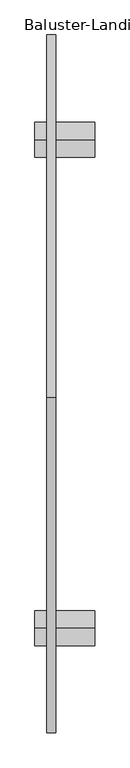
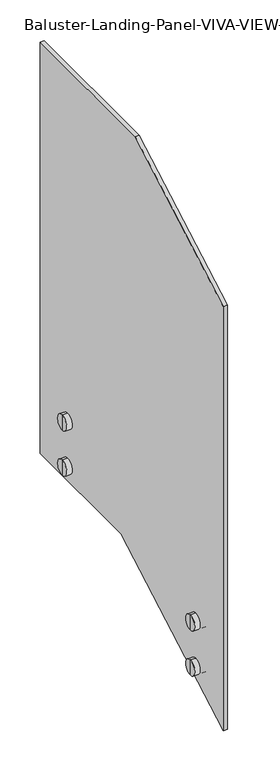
"""IFC4 building model written with IfcOpenShell, lengths in millimetres: railing geometry, Baluster-Landing-Panel-VIVA-VIEW-Lower : Standard_Glass."""

from ifc_helpers import new_model, si_unit, frame, origin, place, context, project, spatial, polyline, circle_curve, outline, extrude, source, transform, mapped, element, save
from ifc_brep_helpers import plane_surface, cylinder_surface, advanced_brep


def baluster_landing_panel_viva_view_lower_standard_glass_8c197ffc(model_context):
    return source(origin(), model_context, "Body", "SolidModel", [
        advanced_brep(
        [(15.875, 147.3891207, -546.0690625), (15.875, 147.3891207, -495.2690625), (15.875, 147.3891207, -520.6690625), (33.3375, 147.3891207, -546.0690625), (33.3375, 147.3891207, -495.2690625), (33.3375, 147.3891207, -526.3840625), (33.3375, 147.3891207, -514.9540625), (46.0375, 147.3891207, -526.3840625), (46.0375, 147.3891207, -514.9540625), (46.0375, 147.3891207, -546.0690625), (46.0375, 147.3891207, -495.2690625), (103.187353, 147.3891207, -546.0690625), (103.187353, 147.3891207, -495.2690625), (103.187353, 147.3891207, -520.6690625)],
        [
            (0, 1, circle_curve(frame((15.875, 147.3891207, -520.6690625), z_axis=(-1.0, 0.0, 0.0), x_axis=(0.0, 0.0, 1.0)), 25.4)),
            (1, 2),
            (2, 0),
            (1, 0, circle_curve(frame((15.875, 147.3891207, -520.6690625), z_axis=(-1.0, 0.0, 0.0), x_axis=(0.0, 0.0, 1.0)), 25.4)),
            (3, 4, circle_curve(frame((33.3375, 147.3891207, -520.6690625), z_axis=(-1.0, 0.0, 0.0), x_axis=(0.0, 0.0, 1.0)), 25.4)),
            (4, 1),
            (0, 3),
            (4, 3, circle_curve(frame((33.3375, 147.3891207, -520.6690625), z_axis=(-1.0, 0.0, 0.0), x_axis=(0.0, 0.0, 1.0)), 25.4)),
            (5, 6, circle_curve(frame((33.3375, 147.3891207, -520.6690625), z_axis=(-1.0, 0.0, 0.0), x_axis=(0.0, 0.0, 1.0)), 5.715)),
            (6, 4),
            (3, 5),
            (6, 5, circle_curve(frame((33.3375, 147.3891207, -520.6690625), z_axis=(-1.0, 0.0, 0.0), x_axis=(0.0, 0.0, 1.0)), 5.715)),
            (7, 8, circle_curve(frame((46.0375, 147.3891207, -520.6690625), z_axis=(-1.0, 0.0, 0.0), x_axis=(0.0, 0.0, 1.0)), 5.715)),
            (8, 6),
            (5, 7),
            (8, 7, circle_curve(frame((46.0375, 147.3891207, -520.6690625), z_axis=(-1.0, 0.0, 0.0), x_axis=(0.0, 0.0, 1.0)), 5.715)),
            (9, 10, circle_curve(frame((46.0375, 147.3891207, -520.6690625), z_axis=(-1.0, 0.0, 0.0), x_axis=(0.0, 0.0, 1.0)), 25.4)),
            (10, 8),
            (7, 9),
            (10, 9, circle_curve(frame((46.0375, 147.3891207, -520.6690625), z_axis=(-1.0, 0.0, 0.0), x_axis=(0.0, 0.0, 1.0)), 25.4)),
            (11, 12, circle_curve(frame((103.187353, 147.3891207, -520.6690625), z_axis=(-1.0, 0.0, 0.0), x_axis=(0.0, 0.0, 1.0)), 25.4)),
            (12, 10),
            (9, 11),
            (12, 11, circle_curve(frame((103.187353, 147.3891207, -520.6690625), z_axis=(-1.0, 0.0, 0.0), x_axis=(0.0, 0.0, 1.0)), 25.4)),
            (13, 12),
            (11, 13),
        ],
        [
            plane_surface(frame((15.875, 147.3891207, -520.6690625), z_axis=(-1.0, 0.0, 0.0), x_axis=(0.0, 0.0, 1.0))),
            cylinder_surface(frame((-52.387647, 147.3891207, -520.6690625), z_axis=(1.0, 0.0, 0.0), x_axis=(0.0, 0.0, 1.0)), 25.4),
            plane_surface(frame((33.3375, 147.3891207, -520.6690625), z_axis=(1.0, 0.0, 0.0), x_axis=(0.0, 0.0, 1.0))),
            cylinder_surface(frame((-52.387647, 147.3891207, -520.6690625), z_axis=(1.0, 0.0, 0.0), x_axis=(0.0, 0.0, 1.0)), 5.715),
            plane_surface(frame((46.0375, 147.3891207, -520.6690625), z_axis=(-1.0, 0.0, 0.0), x_axis=(0.0, 0.0, 1.0))),
            plane_surface(frame((103.187353, 147.3891207, -520.6690625), z_axis=(1.0, 0.0, 0.0), x_axis=(0.0, 0.0, 1.0))),
        ],
        [
            (0, [[1, 2, 3]]),
            (0, [[4, -3, -2]]),
            (1, [[5, 6, -1, 7]]),
            (1, [[8, -7, -4, -6]]),
            (2, [[9, 10, -5, 11]]),
            (2, [[12, -11, -8, -10]]),
            (3, [[13, 14, -9, 15]]),
            (3, [[16, -15, -12, -14]]),
            (4, [[17, 18, -13, 19]]),
            (4, [[20, -19, -16, -18]]),
            (1, [[21, 22, -17, 23]]),
            (1, [[24, -23, -20, -22]]),
            (5, [[25, -21, 26]]),
            (5, [[-26, -24, -25]]),
        ],
    ),
        advanced_brep(
        [(33.3375, 147.3891207, -373.9840625), (33.3375, 147.3891207, -362.5540625), (33.3375, 147.3891207, -342.8690625), (33.3375, 147.3891207, -393.6690625), (46.0375, 147.3891207, -373.9840625), (46.0375, 147.3891207, -362.5540625), (46.0375, 147.3891207, -393.6690625), (46.0375, 147.3891207, -342.8690625), (103.187353, 147.3891207, -393.6690625), (103.187353, 147.3891207, -342.8690625), (103.187353, 147.3891207, -368.2690625), (15.875, 147.3891207, -393.6690625), (15.875, 147.3891207, -342.8690625), (15.875, 147.3891207, -368.2690625)],
        [
            (0, 1, circle_curve(frame((33.3375, 147.3891207, -368.2690625), z_axis=(-1.0, 0.0, 0.0), x_axis=(0.0, 0.0, 1.0)), 5.715)),
            (1, 2),
            (2, 3, circle_curve(frame((33.3375, 147.3891207, -368.2690625), z_axis=(1.0, 0.0, 0.0), x_axis=(0.0, 0.0, 1.0)), 25.4)),
            (3, 0),
            (1, 0, circle_curve(frame((33.3375, 147.3891207, -368.2690625), z_axis=(-1.0, 0.0, 0.0), x_axis=(0.0, 0.0, 1.0)), 5.715)),
            (3, 2, circle_curve(frame((33.3375, 147.3891207, -368.2690625), z_axis=(1.0, 0.0, 0.0), x_axis=(0.0, 0.0, 1.0)), 25.4)),
            (4, 5, circle_curve(frame((46.0375, 147.3891207, -368.2690625), z_axis=(-1.0, 0.0, 0.0), x_axis=(0.0, 0.0, 1.0)), 5.715)),
            (5, 1),
            (0, 4),
            (5, 4, circle_curve(frame((46.0375, 147.3891207, -368.2690625), z_axis=(-1.0, 0.0, 0.0), x_axis=(0.0, 0.0, 1.0)), 5.715)),
            (6, 7, circle_curve(frame((46.0375, 147.3891207, -368.2690625), z_axis=(-1.0, 0.0, 0.0), x_axis=(0.0, 0.0, 1.0)), 25.4)),
            (7, 5),
            (4, 6),
            (7, 6, circle_curve(frame((46.0375, 147.3891207, -368.2690625), z_axis=(-1.0, 0.0, 0.0), x_axis=(0.0, 0.0, 1.0)), 25.4)),
            (8, 9, circle_curve(frame((103.187353, 147.3891207, -368.2690625), z_axis=(-1.0, 0.0, 0.0), x_axis=(0.0, 0.0, 1.0)), 25.4)),
            (9, 7),
            (6, 8),
            (9, 8, circle_curve(frame((103.187353, 147.3891207, -368.2690625), z_axis=(-1.0, 0.0, 0.0), x_axis=(0.0, 0.0, 1.0)), 25.4)),
            (10, 9),
            (8, 10),
            (11, 12, circle_curve(frame((15.875, 147.3891207, -368.2690625), z_axis=(-1.0, 0.0, 0.0), x_axis=(0.0, 0.0, 1.0)), 25.4)),
            (12, 13),
            (13, 11),
            (12, 11, circle_curve(frame((15.875, 147.3891207, -368.2690625), z_axis=(-1.0, 0.0, 0.0), x_axis=(0.0, 0.0, 1.0)), 25.4)),
            (2, 12),
            (11, 3),
        ],
        [
            plane_surface(frame((33.3375, 147.3891207, -368.2690625), z_axis=(1.0, 0.0, 0.0), x_axis=(0.0, 0.0, 1.0))),
            cylinder_surface(frame((-52.387647, 147.3891207, -368.2690625), z_axis=(1.0, 0.0, 0.0), x_axis=(0.0, 0.0, 1.0)), 5.715),
            plane_surface(frame((46.0375, 147.3891207, -368.2690625), z_axis=(-1.0, 0.0, 0.0), x_axis=(0.0, 0.0, 1.0))),
            cylinder_surface(frame((-52.387647, 147.3891207, -368.2690625), z_axis=(1.0, 0.0, 0.0), x_axis=(0.0, 0.0, 1.0)), 25.4),
            plane_surface(frame((103.187353, 147.3891207, -368.2690625), z_axis=(1.0, 0.0, 0.0), x_axis=(0.0, 0.0, 1.0))),
            plane_surface(frame((15.875, 147.3891207, -368.2690625), z_axis=(-1.0, 0.0, 0.0), x_axis=(0.0, 0.0, 1.0))),
        ],
        [
            (0, [[1, 2, 3, 4]]),
            (0, [[5, -4, 6, -2]]),
            (1, [[7, 8, -1, 9]]),
            (1, [[10, -9, -5, -8]]),
            (2, [[11, 12, -7, 13]]),
            (2, [[14, -13, -10, -12]]),
            (3, [[15, 16, -11, 17]]),
            (3, [[18, -17, -14, -16]]),
            (4, [[19, -15, 20]]),
            (4, [[-20, -18, -19]]),
            (5, [[21, 22, 23]]),
            (5, [[24, -23, -22]]),
            (3, [[-3, 25, -21, 26]]),
            (3, [[-6, -26, -24, -25]]),
        ],
    ),
        advanced_brep(
        [(15.875, 858.1688714, -300.2438244), (15.875, 858.1688714, -274.8438244), (15.875, 858.1688714, -249.4438244), (33.3375, 858.1688714, -300.2438244), (33.3375, 858.1688714, -249.4438244), (33.3375, 858.1688714, -280.5588244), (33.3375, 858.1688714, -269.1288244), (46.0375, 858.1688714, -280.5588244), (46.0375, 858.1688714, -269.1288244), (46.0375, 858.1688714, -300.2438244), (46.0375, 858.1688714, -249.4438244), (103.187353, 858.1688714, -300.2438244), (103.187353, 858.1688714, -249.4438244), (103.187353, 858.1688714, -274.8438244)],
        [
            (0, 1),
            (1, 2),
            (2, 0, circle_curve(frame((15.875, 858.1688714, -274.8438244), z_axis=(-1.0, 0.0, 0.0), x_axis=(0.0, 0.0, 1.0)), 25.4)),
            (0, 2, circle_curve(frame((15.875, 858.1688714, -274.8438244), z_axis=(-1.0, 0.0, 0.0), x_axis=(0.0, 0.0, 1.0)), 25.4)),
            (3, 0),
            (2, 4),
            (4, 3, circle_curve(frame((33.3375, 858.1688714, -274.8438244), z_axis=(-1.0, 0.0, 0.0), x_axis=(0.0, 0.0, 1.0)), 25.4)),
            (3, 4, circle_curve(frame((33.3375, 858.1688714, -274.8438244), z_axis=(-1.0, 0.0, 0.0), x_axis=(0.0, 0.0, 1.0)), 25.4)),
            (5, 3),
            (4, 6),
            (6, 5, circle_curve(frame((33.3375, 858.1688714, -274.8438244), z_axis=(-1.0, 0.0, 0.0), x_axis=(0.0, 0.0, 1.0)), 5.715)),
            (5, 6, circle_curve(frame((33.3375, 858.1688714, -274.8438244), z_axis=(-1.0, 0.0, 0.0), x_axis=(0.0, 0.0, 1.0)), 5.715)),
            (7, 5),
            (6, 8),
            (8, 7, circle_curve(frame((46.0375, 858.1688714, -274.8438244), z_axis=(-1.0, 0.0, 0.0), x_axis=(0.0, 0.0, 1.0)), 5.715)),
            (7, 8, circle_curve(frame((46.0375, 858.1688714, -274.8438244), z_axis=(-1.0, 0.0, 0.0), x_axis=(0.0, 0.0, 1.0)), 5.715)),
            (9, 7),
            (8, 10),
            (10, 9, circle_curve(frame((46.0375, 858.1688714, -274.8438244), z_axis=(-1.0, 0.0, 0.0), x_axis=(0.0, 0.0, 1.0)), 25.4)),
            (9, 10, circle_curve(frame((46.0375, 858.1688714, -274.8438244), z_axis=(-1.0, 0.0, 0.0), x_axis=(0.0, 0.0, 1.0)), 25.4)),
            (11, 9),
            (10, 12),
            (12, 11, circle_curve(frame((103.187353, 858.1688714, -274.8438244), z_axis=(-1.0, 0.0, 0.0), x_axis=(0.0, 0.0, 1.0)), 25.4)),
            (11, 12, circle_curve(frame((103.187353, 858.1688714, -274.8438244), z_axis=(-1.0, 0.0, 0.0), x_axis=(0.0, 0.0, 1.0)), 25.4)),
            (13, 11),
            (12, 13),
        ],
        [
            plane_surface(frame((15.875, 858.1688714, -274.8438244), z_axis=(-1.0, 0.0, 0.0), x_axis=(0.0, 0.0, 1.0))),
            cylinder_surface(frame((-52.387647, 858.1688714, -274.8438244), z_axis=(1.0, 0.0, 0.0), x_axis=(0.0, 0.0, 1.0)), 25.4),
            plane_surface(frame((33.3375, 858.1688714, -274.8438244), z_axis=(1.0, 0.0, 0.0), x_axis=(0.0, 0.0, 1.0))),
            cylinder_surface(frame((-52.387647, 858.1688714, -274.8438244), z_axis=(1.0, 0.0, 0.0), x_axis=(0.0, 0.0, 1.0)), 5.715),
            plane_surface(frame((46.0375, 858.1688714, -274.8438244), z_axis=(-1.0, 0.0, 0.0), x_axis=(0.0, 0.0, 1.0))),
            plane_surface(frame((103.187353, 858.1688714, -274.8438244), z_axis=(1.0, 0.0, 0.0), x_axis=(0.0, 0.0, 1.0))),
        ],
        [
            (0, [[1, 2, 3]]),
            (0, [[-2, -1, 4]]),
            (1, [[5, -3, 6, 7]]),
            (1, [[-6, -4, -5, 8]]),
            (2, [[9, -7, 10, 11]]),
            (2, [[-10, -8, -9, 12]]),
            (3, [[13, -11, 14, 15]]),
            (3, [[-14, -12, -13, 16]]),
            (4, [[17, -15, 18, 19]]),
            (4, [[-18, -16, -17, 20]]),
            (1, [[21, -19, 22, 23]]),
            (1, [[-22, -20, -21, 24]]),
            (5, [[25, -23, 26]]),
            (5, [[-26, -24, -25]]),
        ],
    ),
        advanced_brep(
        [(33.3375, 858.1688714, -128.1588244), (33.3375, 858.1688714, -147.8438244), (33.3375, 858.1688714, -97.0438244), (33.3375, 858.1688714, -116.7288244), (46.0375, 858.1688714, -128.1588244), (46.0375, 858.1688714, -116.7288244), (46.0375, 858.1688714, -147.8438244), (46.0375, 858.1688714, -97.0438244), (103.187353, 858.1688714, -147.8438244), (103.187353, 858.1688714, -97.0438244), (103.187353, 858.1688714, -122.4438244), (15.875, 858.1688714, -147.8438244), (15.875, 858.1688714, -122.4438244), (15.875, 858.1688714, -97.0438244)],
        [
            (0, 1),
            (1, 2, circle_curve(frame((33.3375, 858.1688714, -122.4438244), z_axis=(1.0, 0.0, 0.0), x_axis=(0.0, 0.0, 1.0)), 25.4)),
            (2, 3),
            (3, 0, circle_curve(frame((33.3375, 858.1688714, -122.4438244), z_axis=(-1.0, 0.0, 0.0), x_axis=(0.0, 0.0, 1.0)), 5.715)),
            (2, 1, circle_curve(frame((33.3375, 858.1688714, -122.4438244), z_axis=(1.0, 0.0, 0.0), x_axis=(0.0, 0.0, 1.0)), 25.4)),
            (0, 3, circle_curve(frame((33.3375, 858.1688714, -122.4438244), z_axis=(-1.0, 0.0, 0.0), x_axis=(0.0, 0.0, 1.0)), 5.715)),
            (4, 0),
            (3, 5),
            (5, 4, circle_curve(frame((46.0375, 858.1688714, -122.4438244), z_axis=(-1.0, 0.0, 0.0), x_axis=(0.0, 0.0, 1.0)), 5.715)),
            (4, 5, circle_curve(frame((46.0375, 858.1688714, -122.4438244), z_axis=(-1.0, 0.0, 0.0), x_axis=(0.0, 0.0, 1.0)), 5.715)),
            (6, 4),
            (5, 7),
            (7, 6, circle_curve(frame((46.0375, 858.1688714, -122.4438244), z_axis=(-1.0, 0.0, 0.0), x_axis=(0.0, 0.0, 1.0)), 25.4)),
            (6, 7, circle_curve(frame((46.0375, 858.1688714, -122.4438244), z_axis=(-1.0, 0.0, 0.0), x_axis=(0.0, 0.0, 1.0)), 25.4)),
            (8, 6),
            (7, 9),
            (9, 8, circle_curve(frame((103.187353, 858.1688714, -122.4438244), z_axis=(-1.0, 0.0, 0.0), x_axis=(0.0, 0.0, 1.0)), 25.4)),
            (8, 9, circle_curve(frame((103.187353, 858.1688714, -122.4438244), z_axis=(-1.0, 0.0, 0.0), x_axis=(0.0, 0.0, 1.0)), 25.4)),
            (10, 8),
            (9, 10),
            (11, 12),
            (12, 13),
            (13, 11, circle_curve(frame((15.875, 858.1688714, -122.4438244), z_axis=(-1.0, 0.0, 0.0), x_axis=(0.0, 0.0, 1.0)), 25.4)),
            (11, 13, circle_curve(frame((15.875, 858.1688714, -122.4438244), z_axis=(-1.0, 0.0, 0.0), x_axis=(0.0, 0.0, 1.0)), 25.4)),
            (1, 11),
            (13, 2),
        ],
        [
            plane_surface(frame((33.3375, 858.1688714, -122.4438244), z_axis=(1.0, 0.0, 0.0), x_axis=(0.0, 0.0, 1.0))),
            cylinder_surface(frame((-52.387647, 858.1688714, -122.4438244), z_axis=(1.0, 0.0, 0.0), x_axis=(0.0, 0.0, 1.0)), 5.715),
            plane_surface(frame((46.0375, 858.1688714, -122.4438244), z_axis=(-1.0, 0.0, 0.0), x_axis=(0.0, 0.0, 1.0))),
            cylinder_surface(frame((-52.387647, 858.1688714, -122.4438244), z_axis=(1.0, 0.0, 0.0), x_axis=(0.0, 0.0, 1.0)), 25.4),
            plane_surface(frame((103.187353, 858.1688714, -122.4438244), z_axis=(1.0, 0.0, 0.0), x_axis=(0.0, 0.0, 1.0))),
            plane_surface(frame((15.875, 858.1688714, -122.4438244), z_axis=(-1.0, 0.0, 0.0), x_axis=(0.0, 0.0, 1.0))),
        ],
        [
            (0, [[1, 2, 3, 4]]),
            (0, [[-3, 5, -1, 6]]),
            (1, [[7, -4, 8, 9]]),
            (1, [[-8, -6, -7, 10]]),
            (2, [[11, -9, 12, 13]]),
            (2, [[-12, -10, -11, 14]]),
            (3, [[15, -13, 16, 17]]),
            (3, [[-16, -14, -15, 18]]),
            (4, [[19, -17, 20]]),
            (4, [[-20, -18, -19]]),
            (5, [[21, 22, 23]]),
            (5, [[-22, -21, 24]]),
            (3, [[25, -23, 26, -2]]),
            (3, [[-26, -24, -25, -5]]),
        ],
    ),
        extrude(outline(polyline([(483.5416293, 1066.8), (1010.5688714, 1066.8), (1010.5688714, -325.6438244), (561.0684305, -325.6438244), (-5.0108793, -649.0537444), (-5.0108793, 787.6823482), (483.5416293, 1066.8)])), frame((33.3375, 0.0, 0.0), z_axis=(1.0, 0.0, 0.0), x_axis=(0.0, 1.0, 0.0)), (0.0, 0.0, 1.0), 12.7),
    ])


if __name__ == "__main__":
    model = new_model("IFC4")
    model_context = context("Model", 3, world=origin())
    ifc_project = project(units=[si_unit("LENGTHUNIT", "METRE", prefix="MILLI")], contexts=[model_context])
    site = spatial("IfcSite", under=ifc_project)
    building = spatial("IfcBuilding", under=site)
    placement = place(None, origin())
    baluster_landing_panel_viva_view_lower_standard_glass_shape = baluster_landing_panel_viva_view_lower_standard_glass_8c197ffc(model_context)
    element("IfcRailing", 1, ObjectType="Baluster-Landing-Panel-VIVA-VIEW-Lower : Standard_Glass", at=placement, inside=building, context=model_context, shape_type="MappedRepresentation", body=[
        mapped(baluster_landing_panel_viva_view_lower_standard_glass_shape, transform((0.0, 0.0, 0.0), x_axis=(1.0, 0.0, 0.0), y_axis=(0.0, 1.0, 0.0), z_axis=(0.0, 0.0, 1.0))),
    ])
    save(model, "model.ifc")
